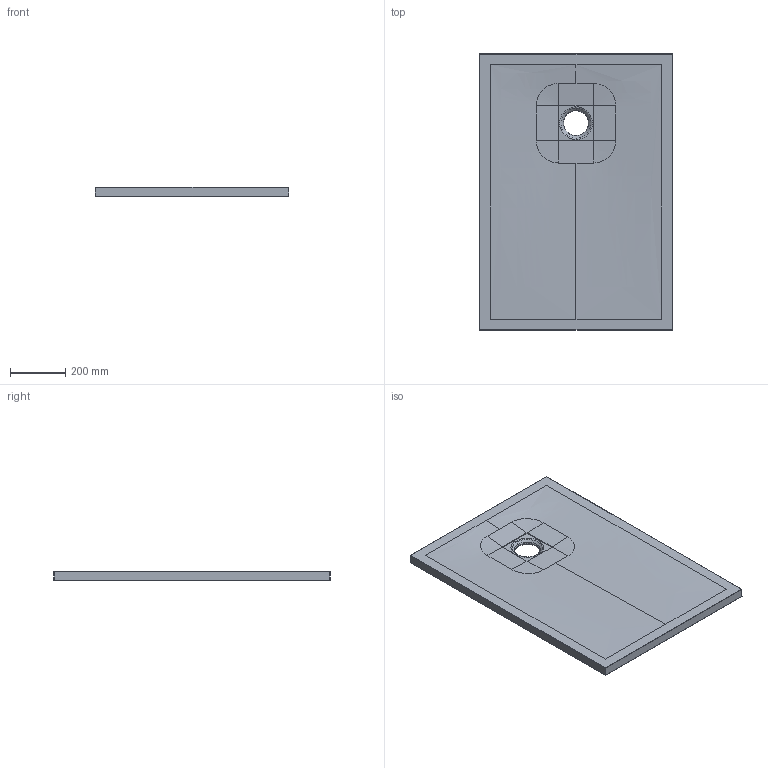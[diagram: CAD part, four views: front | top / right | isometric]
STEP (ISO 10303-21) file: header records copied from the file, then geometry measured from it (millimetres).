
FILE_DESCRIPTION(/* description */ (''),/* implementation_level */ '2;1');
FILE_NAME(/* name */ '1000X700.stp',/* time_stamp */ '2022-02-25T14:24:22+01:00',/* author */ (''),/* organization */ (''),/* preprocessor_version */ 'ST-DEVELOPER v18.1',/* originating_system */ 'SIEMENS PLM Software NX 1973',/* authorisation */ '');
FILE_SCHEMA (('AUTOMOTIVE_DESIGN { 1 0 10303 214 3 1 1 1 }'));
Length unit declared in the file: millimetre
Products named in the file (1): Cava2B7C939Cut5d
Bounding box: 699.98 x 999.98 x 33 mm (x, y, z)
Volume: 20269281 mm3; surface area: 1497229.7 mm2
Topology: 1 solids, 1 shells, 58 faces, 135 edges, 74 vertices
Faces by surface type: bspline 22, cylinder 14, plane 13, sphere 8, cone 1
Full cylindrical faces by diameter (mm): 8 x2
Entity records: 4611 total; most frequent: CARTESIAN_POINT 3512, ORIENTED_EDGE 246, DIRECTION 164, EDGE_CURVE 123, VERTEX_POINT 73, AXIS2_PLACEMENT_3D 70, B_SPLINE_CURVE_WITH_KNOTS 66, EDGE_LOOP 66
